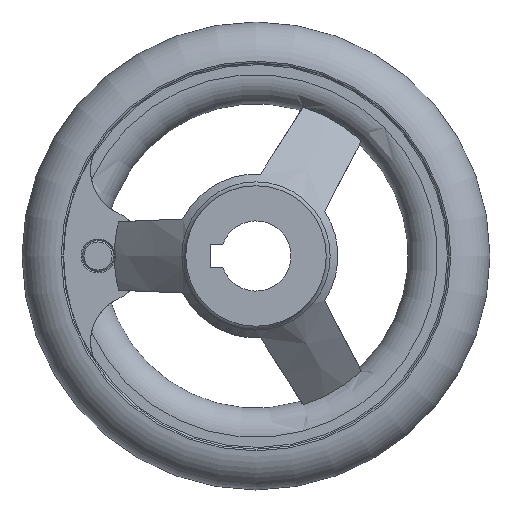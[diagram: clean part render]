
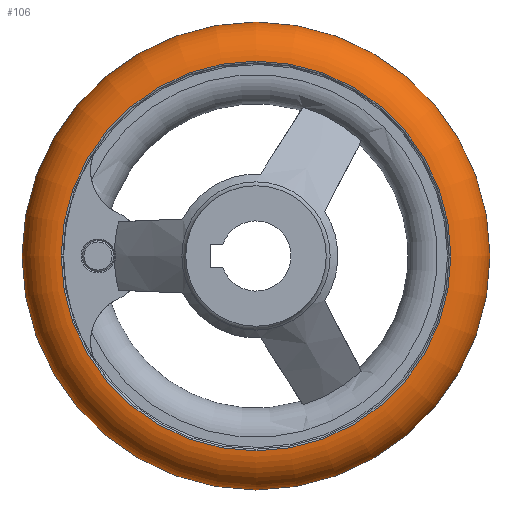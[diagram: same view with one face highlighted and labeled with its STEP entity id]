
A CAD part, left-side view. The second image highlights one B-rep face of the part: STEP entity #106.
In plain terms, the highlighted toroidal (fillet/blend) face has major radius 32.994 mm and minor radius 7.006 mm.
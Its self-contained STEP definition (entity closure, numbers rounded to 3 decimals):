
#106 = ADVANCED_FACE( '', ( #206, #207, #208 ), #209, .T. );
#206 = FACE_BOUND( '', #367, .T. );
#207 = FACE_OUTER_BOUND( '', #368, .T. );
#208 = FACE_OUTER_BOUND( '', #369, .T. );
#209 = TOROIDAL_SURFACE( '', #370, 32.994, 7.006 );
#367 = VERTEX_LOOP( '', #643 );
#368 = EDGE_LOOP( '', ( #644 ) );
#369 = EDGE_LOOP( '', ( #645 ) );
#370 = AXIS2_PLACEMENT_3D( '', #646, #647, #648 );
#643 = VERTEX_POINT( '', #886 );
#644 = ORIENTED_EDGE( '', *, *, #885, .T. );
#645 = ORIENTED_EDGE( '', *, *, #880, .F. );
#646 = CARTESIAN_POINT( '', ( 22., 0., 0. ) );
#647 = DIRECTION( '', ( 1., 0., 0. ) );
#648 = DIRECTION( '', ( 0., 1., 0. ) );
#880 = EDGE_CURVE( '', #1063, #1063, #1064, .T. );
#885 = EDGE_CURVE( '', #1072, #1072, #1073, .T. );
#886 = CARTESIAN_POINT( '', ( 22., 40., 0. ) );
#1063 = VERTEX_POINT( '', #1548 );
#1064 = CIRCLE( '', #1549, 33.292 );
#1072 = VERTEX_POINT( '', #1557 );
#1073 = CIRCLE( '', #1558, 33.292 );
#1548 = CARTESIAN_POINT( '', ( 29., 33.292, 0. ) );
#1549 = AXIS2_PLACEMENT_3D( '', #1766, #1767, #1768 );
#1557 = CARTESIAN_POINT( '', ( 15., 33.292, 0. ) );
#1558 = AXIS2_PLACEMENT_3D( '', #1781, #1782, #1783 );
#1766 = CARTESIAN_POINT( '', ( 29., 0., 0. ) );
#1767 = DIRECTION( '', ( 1., 0., 0. ) );
#1768 = DIRECTION( '', ( 0., 1., 0. ) );
#1781 = CARTESIAN_POINT( '', ( 15., 0., 0. ) );
#1782 = DIRECTION( '', ( 1., 0., 0. ) );
#1783 = DIRECTION( '', ( 0., 1., 0. ) );
